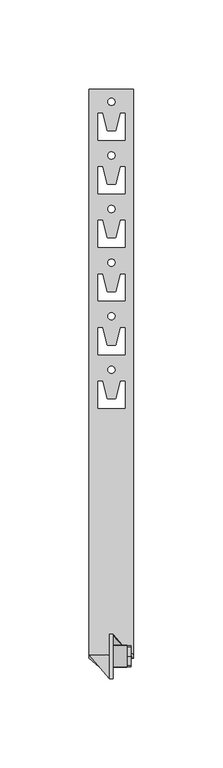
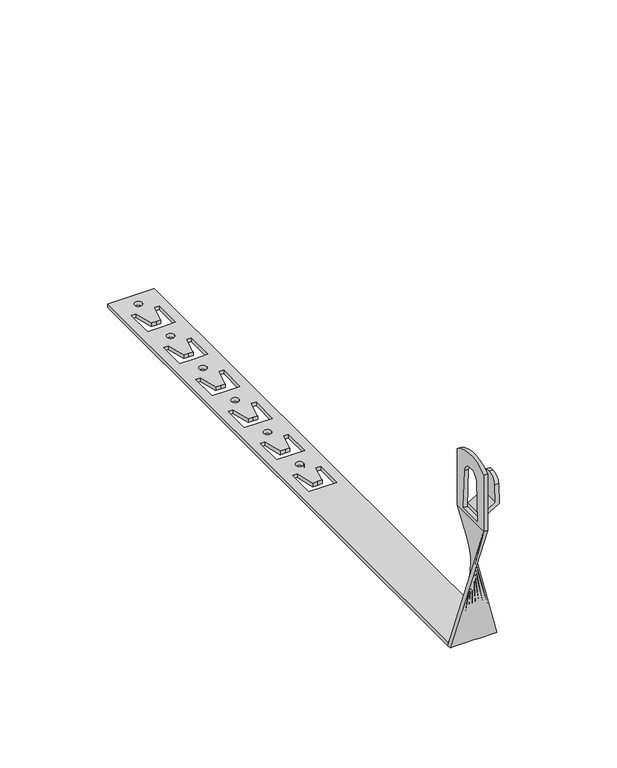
"""IFC4 building model written with IfcOpenShell, lengths in millimetres: proxy geometry, КНС_ДержательСкрученныйПодЧерепицу_DKC : ND2206CU_Медь_330 мм."""

from ifc_helpers import new_model, si_unit, point, frame, frame_2d, origin, origin_with_axes, place, context, project, spatial, polyline, circle_curve, trimmed, segment, composite_curve, outline, extrude, source, transform, mapped, element, save
from ifc_brep_helpers import plane_surface, cylinder_surface, revolved_surface, spline_surface, advanced_brep


def security_devices_241d8431(model_context):
    return source(origin(), model_context, "Body", "SolidModel", [
        advanced_brep(
        [(1.0, 0.0, 100.874537), (1.0, 0.0, 69.0), (1.0, 25.0, 69.0), (1.0, 25.0, 100.874537), (1.0, 7.1354712, 92.6660817), (1.0, 12.5, 97.1674559), (1.0, 17.8645288, 92.6660817), (1.0, 19.0, 71.0), (1.0, 6.0, 71.0), (-1.0, 0.0, 100.874537), (-1.0, 25.0, 100.874537), (-1.0, 25.0, 69.0), (-1.0, 0.0, 69.0), (-1.0, 7.1354712, 92.6660817), (-1.0, 6.0, 71.0), (-1.0, 19.0, 71.0), (-1.0, 17.8645288, 92.6660817), (-1.0, 12.5, 97.1674559), (12.5, 13.5, 0.0), (12.5, 11.5, 0.0), (-12.5, 11.5, 0.0), (-12.5, 13.5, 0.0)],
        [
            (0, 1),
            (1, 2),
            (2, 3),
            (3, 0, circle_curve(frame((1.0, 12.5, 84.0), z_axis=(1.0, 0.0, 0.0), x_axis=(0.0, 1.0, 0.0)), 21.0)),
            (4, 5, circle_curve(frame((1.0, 11.9165352, 92.4155168), z_axis=(-1.0, 0.0, 0.0), x_axis=(0.0, 1.0, 0.0)), 4.7876253)),
            (5, 6, circle_curve(frame((1.0, 13.0834648, 92.4155168), z_axis=(-1.0, 0.0, 0.0), x_axis=(0.0, 1.0, 0.0)), 4.7876253)),
            (6, 7),
            (7, 8),
            (8, 4),
            (9, 10, circle_curve(frame((-1.0, 12.5, 84.0), z_axis=(-1.0, 0.0, 0.0), x_axis=(0.0, 1.0, 0.0)), 21.0)),
            (10, 11),
            (11, 12),
            (12, 9),
            (13, 14),
            (14, 15),
            (15, 16),
            (16, 17, circle_curve(frame((-1.0, 13.0834648, 92.4155168), z_axis=(1.0, 0.0, 0.0), x_axis=(0.0, 1.0, 0.0)), 4.7876253)),
            (17, 13, circle_curve(frame((-1.0, 11.9165352, 92.4155168), z_axis=(1.0, 0.0, 0.0), x_axis=(0.0, 1.0, 0.0)), 4.7876253)),
            (0, 9),
            (12, 1),
            (2, 11),
            (10, 3),
            (4, 13),
            (17, 5),
            (16, 6),
            (15, 7),
            (14, 8),
            (18, 19),
            (19, 20),
            (20, 21),
            (21, 18),
            (21, 12),
            (11, 18),
            (20, 1),
            (2, 19),
        ],
        [
            plane_surface(frame((1.0, 0.0, 65.0), z_axis=(1.0, 0.0, 0.0), x_axis=(0.0, 0.0, -1.0))),
            plane_surface(frame((-1.0, 0.0, 65.0), z_axis=(-1.0, 0.0, 0.0), x_axis=(0.0, 0.0, 1.0))),
            plane_surface(frame((1.0, 0.0, 100.874537), z_axis=(0.0, -1.0, 0.0), x_axis=(-1.0, 0.0, 0.0))),
            plane_surface(frame((1.0, 25.0, 69.0), z_axis=(0.0, 1.0, 0.0), x_axis=(-1.0, 0.0, 0.0))),
            cylinder_surface(frame((-1.0, 12.5, 84.0), z_axis=(1.0, 0.0, 0.0), x_axis=(0.0, 1.0, 0.0)), 21.0),
            revolved_surface(polyline([(-1.0, 16.7041605, 92.4155168), (1.0, 16.7041605, 92.4155168)]), (11.0, 11.9165352, 92.4155168), (-1.0, 0.0, 0.0)),
            revolved_surface(polyline([(-1.0, 17.8710901, 92.4155168), (1.0, 17.8710901, 92.4155168)]), (11.0, 13.0834648, 92.4155168), (-1.0, 0.0, 0.0)),
            plane_surface(frame((1.0, 17.8645288, 92.6660817), z_axis=(0.0, -0.9986295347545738, -0.0523359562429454), x_axis=(-1.0, 0.0, 0.0))),
            plane_surface(frame((1.0, 19.0, 71.0), z_axis=(0.0, 0.0, 1.0), x_axis=(-1.0, 0.0, 0.0))),
            plane_surface(frame((1.0, 6.0, 71.0), z_axis=(0.0, 0.9986295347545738, -0.052335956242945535), x_axis=(-1.0, 0.0, 0.0))),
            plane_surface(frame((0.0, 12.5, 0.0), z_axis=(0.0, 0.0, -1.0), x_axis=(0.0, 1.0, 0.0))),
            spline_surface(1, 1, [[(12.5, 13.5, 0.0), (-1.0, 25.0, 69.0)], [(-12.5, 13.5, 0.0), (-1.0, 0.0, 69.0)]], [2, 2], [2, 2], [0.0, 1.0], [0.0, 1.0]),
            spline_surface(1, 1, [[(-12.5, 13.5, 0.0), (-1.0, 0.0, 69.0)], [(-12.5, 11.5, 0.0), (1.0, 0.0, 69.0)]], [2, 2], [2, 2], [0.0, 1.0], [0.0, 1.0]),
            spline_surface(1, 1, [[(12.5, 11.5, 0.0), (1.0, 25.0, 69.0)], [(12.5, 13.5, 0.0), (-1.0, 25.0, 69.0)]], [2, 2], [2, 2], [0.0, 1.0], [0.0, 1.0]),
            spline_surface(1, 1, [[(-12.5, 11.5, 0.0), (1.0, 0.0, 69.0)], [(12.5, 11.5, 0.0), (1.0, 25.0, 69.0)]], [2, 2], [2, 2], [0.0, 1.0], [0.0, 1.0]),
        ],
        [
            (0, [[1, 2, 3, 4], [5, 6, 7, 8, 9]]),
            (1, [[10, 11, 12, 13], [14, 15, 16, 17, 18]]),
            (2, [[-1, 19, -13, 20]]),
            (3, [[-3, 21, -11, 22]]),
            (4, [[-4, -22, -10, -19]]),
            (5, [[-5, 23, -18, 24]]),
            (6, [[-6, -24, -17, 25]]),
            (7, [[-7, -25, -16, 26]]),
            (8, [[-8, -26, -15, 27]]),
            (9, [[-9, -27, -14, -23]]),
            (10, [[28, 29, 30, 31]]),
            (11, [[-31, 32, -12, 33]]),
            (12, [[-30, 34, -20, -32]]),
            (13, [[-28, -33, -21, 35]]),
            (14, [[-29, -35, -2, -34]]),
        ],
    ),
        advanced_brep(
        [(11.0, 17.8645288, 87.6660817), (11.0, 12.5, 92.1674559), (11.0, 7.1354712, 87.6660817), (11.0, 6.5646154, 76.7735027), (11.0, 18.4353846, 76.7735027), (1.0, 18.7379611, 71.0), (1.0, 6.2620389, 71.0), (1.0, 6.3830695, 73.3094011), (1.0, 18.6169305, 73.3094011), (9.0, 7.1354712, 87.6660817), (9.0, 6.6251306, 77.9282032), (9.0, 18.3748694, 77.9282032), (9.0, 17.8645288, 87.6660817), (9.0, 12.5, 92.1674559)],
        [
            (0, 1, circle_curve(frame((11.0, 13.0834648, 87.4155168), z_axis=(1.0, 0.0, 0.0), x_axis=(0.0, 1.0, 0.0)), 4.7876253)),
            (1, 2, circle_curve(frame((11.0, 11.9165352, 87.4155168), z_axis=(1.0, 0.0, 0.0), x_axis=(0.0, 1.0, 0.0)), 4.7876253)),
            (2, 3),
            (3, 4),
            (4, 0),
            (5, 6),
            (6, 7),
            (7, 8),
            (8, 5),
            (2, 9),
            (9, 10),
            (10, 7),
            (6, 3),
            (4, 5),
            (8, 11),
            (11, 12),
            (12, 0),
            (12, 13, circle_curve(frame((9.0, 13.0834648, 87.4155168), z_axis=(1.0, 0.0, 0.0), x_axis=(0.0, 1.0, 0.0)), 4.7876253)),
            (13, 1),
            (13, 9, circle_curve(frame((9.0, 11.9165352, 87.4155168), z_axis=(1.0, 0.0, 0.0), x_axis=(0.0, 1.0, 0.0)), 4.7876253)),
            (10, 11),
        ],
        [
            plane_surface(frame((11.0, 6.2585459, 70.9333499), z_axis=(1.0, 0.0, 0.0), x_axis=(0.0, -0.05233595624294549, -0.9986295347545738))),
            plane_surface(frame((1.0, 6.2585459, 70.9333499), z_axis=(-1.0, 0.0, 0.0), x_axis=(0.0, 0.05233595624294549, 0.9986295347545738))),
            plane_surface(frame((11.0, 7.1354712, 87.6660817), z_axis=(0.0, -0.9986295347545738, 0.05233595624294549), x_axis=(-1.0, 0.0, 0.0))),
            plane_surface(frame((11.0, 18.7379611, 71.0), z_axis=(0.0, 0.9986295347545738, 0.05233595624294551), x_axis=(-1.0, 0.0, 0.0))),
            cylinder_surface(frame((1.0, 13.0834648, 87.4155168), z_axis=(1.0, 0.0, 0.0), x_axis=(0.0, 1.0, 0.0)), 4.7876253),
            cylinder_surface(frame((1.0, 11.9165352, 87.4155168), z_axis=(1.0, 0.0, 0.0), x_axis=(0.0, 1.0, 0.0)), 4.7876253),
            plane_surface(frame((1.0, 25.0, 71.0), z_axis=(0.500000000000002, 0.0, -0.8660254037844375), x_axis=(0.0, -1.0, 0.0))),
            plane_surface(frame((9.0, 25.0, 77.9282032), z_axis=(-0.5000000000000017, 0.0, 0.8660254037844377), x_axis=(0.0, -1.0, 0.0))),
            plane_surface(frame((9.0, 25.0, 102.9372685), z_axis=(-1.0, 0.0, 0.0), x_axis=(0.0, -1.0, 0.0))),
        ],
        [
            (0, [[1, 2, 3, 4, 5]]),
            (1, [[6, 7, 8, 9]]),
            (2, [[-3, 10, 11, 12, -7, 13]]),
            (3, [[-5, 14, -9, 15, 16, 17]]),
            (4, [[-1, -17, 18, 19]]),
            (5, [[-2, -19, 20, -10]]),
            (6, [[-4, -13, -6, -14]]),
            (7, [[21, -15, -8, -12]]),
            (8, [[-21, -11, -20, -18, -16]]),
        ],
    ),
        extrude(outline(polyline([(12.5, 330.0), (12.5, 13.5), (-12.5, 13.5), (-12.5, 330.0), (12.5, 330.0)]), holes=[composite_curve([segment(trimmed(circle_curve(frame_2d((0.0, 322.9763791)), 2.0), [point((-2.0, 322.9763791))], [point((2.0, 322.9763791))], True, "CARTESIAN"), True, "CONTINUOUS"), segment(trimmed(circle_curve(frame_2d((0.0, 322.9763791)), 2.0), [point((2.0, 322.9763791))], [point((-2.0, 322.9763791))], True, "CARTESIAN"), True, "CONTINUOUS")], self_intersect=False), polyline([(-7.5, 301.5), (0.0, 301.5), (7.5, 301.5), (7.5, 316.5981413), (5.0452497, 316.5981413), (2.5276553, 306.5), (0.0, 306.5), (-2.5276553, 306.5), (-5.0452497, 316.5981413), (-7.5, 316.5981413), (-7.5, 301.5)]), composite_curve([segment(trimmed(circle_curve(frame_2d((0.0, 292.9763791)), 2.0), [point((-2.0, 292.9763791))], [point((2.0, 292.9763791))], True, "CARTESIAN"), True, "CONTINUOUS"), segment(trimmed(circle_curve(frame_2d((0.0, 292.9763791)), 2.0), [point((2.0, 292.9763791))], [point((-2.0, 292.9763791))], True, "CARTESIAN"), True, "CONTINUOUS")], self_intersect=False), polyline([(-7.5, 271.5), (0.0, 271.5), (7.5, 271.5), (7.5, 286.5981413), (5.0452497, 286.5981413), (2.5276553, 276.5), (0.0, 276.5), (-2.5276553, 276.5), (-5.0452497, 286.5981413), (-7.5, 286.5981413), (-7.5, 271.5)]), composite_curve([segment(trimmed(circle_curve(frame_2d((0.0, 262.9763791)), 2.0), [point((-2.0, 262.9763791))], [point((2.0, 262.9763791))], True, "CARTESIAN"), True, "CONTINUOUS"), segment(trimmed(circle_curve(frame_2d((0.0, 262.9763791)), 2.0), [point((2.0, 262.9763791))], [point((-2.0, 262.9763791))], True, "CARTESIAN"), True, "CONTINUOUS")], self_intersect=False), polyline([(-7.5, 241.5), (0.0, 241.5), (7.5, 241.5), (7.5, 256.5981413), (5.0452497, 256.5981413), (2.5276553, 246.5), (0.0, 246.5), (-2.5276553, 246.5), (-5.0452497, 256.5981413), (-7.5, 256.5981413), (-7.5, 241.5)]), composite_curve([segment(trimmed(circle_curve(frame_2d((0.0, 232.9763791)), 2.0), [point((-2.0, 232.9763791))], [point((2.0, 232.9763791))], True, "CARTESIAN"), True, "CONTINUOUS"), segment(trimmed(circle_curve(frame_2d((0.0, 232.9763791)), 2.0), [point((2.0, 232.9763791))], [point((-2.0, 232.9763791))], True, "CARTESIAN"), True, "CONTINUOUS")], self_intersect=False), polyline([(-7.5, 211.5), (0.0, 211.5), (7.5, 211.5), (7.5, 226.5981413), (5.0452497, 226.5981413), (2.5276553, 216.5), (0.0, 216.5), (-2.5276553, 216.5), (-5.0452497, 226.5981413), (-7.5, 226.5981413), (-7.5, 211.5)]), composite_curve([segment(trimmed(circle_curve(frame_2d((0.0, 202.9763791)), 2.0), [point((-2.0, 202.9763791))], [point((2.0, 202.9763791))], True, "CARTESIAN"), True, "CONTINUOUS"), segment(trimmed(circle_curve(frame_2d((0.0, 202.9763791)), 2.0), [point((2.0, 202.9763791))], [point((-2.0, 202.9763791))], True, "CARTESIAN"), True, "CONTINUOUS")], self_intersect=False), polyline([(-7.5, 181.5), (0.0, 181.5), (7.5, 181.5), (7.5, 196.5981413), (5.0452497, 196.5981413), (2.5276553, 186.5), (0.0, 186.5), (-2.5276553, 186.5), (-5.0452497, 196.5981413), (-7.5, 196.5981413), (-7.5, 181.5)]), composite_curve([segment(trimmed(circle_curve(frame_2d((0.0, 172.9763791)), 2.0), [point((-2.0, 172.9763791))], [point((2.0, 172.9763791))], True, "CARTESIAN"), True, "CONTINUOUS"), segment(trimmed(circle_curve(frame_2d((0.0, 172.9763791)), 2.0), [point((2.0, 172.9763791))], [point((-2.0, 172.9763791))], True, "CARTESIAN"), True, "CONTINUOUS")], self_intersect=False), polyline([(-7.5, 151.5), (0.0, 151.5), (7.5, 151.5), (7.5, 166.5981413), (5.0452497, 166.5981413), (2.5276553, 156.5), (0.0, 156.5), (-2.5276553, 156.5), (-5.0452497, 166.5981413), (-7.5, 166.5981413), (-7.5, 151.5)])]), origin_with_axes(), (0.0, 0.0, 1.0), 2.0),
    ])


if __name__ == "__main__":
    model = new_model("IFC4")
    model_context = context("Model", 3, world=origin())
    ifc_project = project(units=[si_unit("LENGTHUNIT", "METRE", prefix="MILLI")], contexts=[model_context])
    site = spatial("IfcSite", under=ifc_project)
    building = spatial("IfcBuilding", under=site)
    placement = place(None, origin())
    security_devices_shape = security_devices_241d8431(model_context)
    element("IfcBuildingElementProxy", 1, Name="КНС_ДержательСкрученныйПодЧерепицу_DKC : ND2206CU_Медь_330 мм", ObjectType="КНС_ДержательСкрученныйПодЧерепицу_DKC : ND2206CU_Медь_330 мм", at=placement, inside=building, context=model_context, shape_type="MappedRepresentation", body=[
        mapped(security_devices_shape, transform((0.0, 0.0, 0.0), x_axis=(1.0, 0.0, 0.0), y_axis=(0.0, 1.0, 0.0), z_axis=(0.0, 0.0, 1.0))),
    ])
    save(model, "model.ifc")
